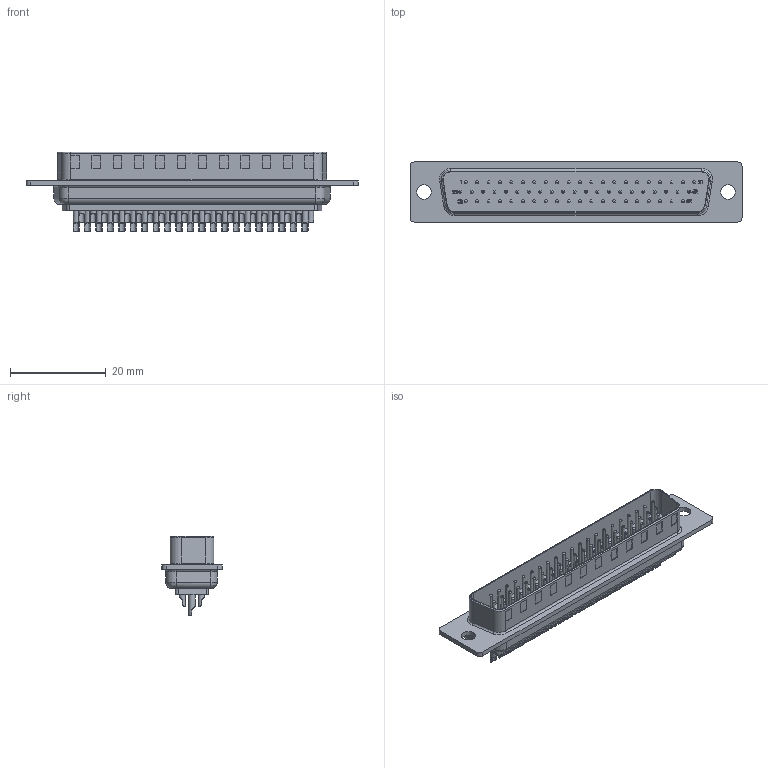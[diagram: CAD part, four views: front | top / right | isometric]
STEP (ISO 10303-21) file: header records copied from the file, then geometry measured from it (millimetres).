
FILE_DESCRIPTION (( 'STEP AP203' ), '1' );
FILE_NAME ('780-M62-103L001.STEP', '2026-02-06T20:56:00', ( '' ), ( '' ), 'SwSTEP 2.0', 'SolidWorks 2020', '' );
FILE_SCHEMA (( 'CONFIG_CONTROL_DESIGN' ));
Length unit declared in the file: inch
Products named in the file (1): 780-M62-103L001
Bounding box: 69.32 x 12.55 x 16.59 mm (x, y, z)
Volume: 3979.9 mm3; surface area: 5931.3 mm2
Topology: 1 solids, 1 shells, 1360 faces, 3388 edges, 2208 vertices
Faces by surface type: plane 708, cylinder 472, bspline 180
Full cylindrical faces by diameter (mm): 0.61 x62, 1.143 x62, 1.321 x62, 3.048 x2
Entity records: 48234 total; most frequent: CARTESIAN_POINT 19102, ORIENTED_EDGE 6276, DIRECTION 4977, EDGE_CURVE 3138, VERTEX_POINT 2208, EDGE_LOOP 1792, LINE 1719, VECTOR 1719
